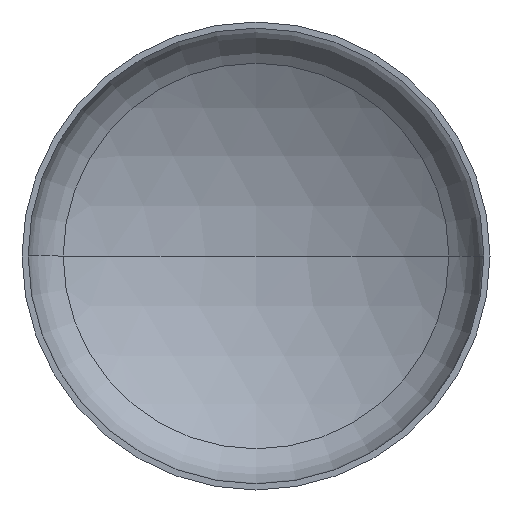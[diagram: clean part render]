
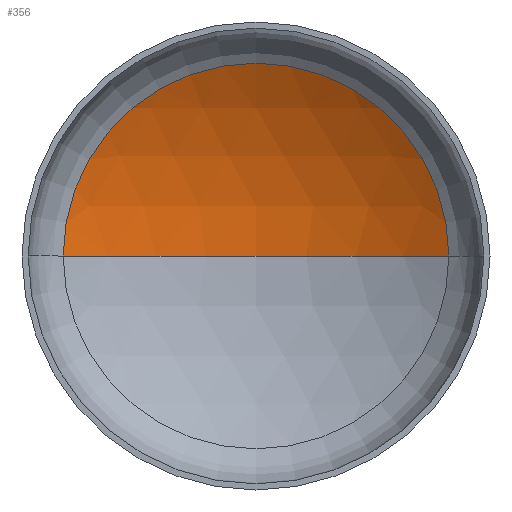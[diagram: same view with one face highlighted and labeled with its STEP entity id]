
A CAD part, front view. The second image highlights one B-rep face of the part: STEP entity #356.
In plain terms, the highlighted spherical face has radius 5600 mm.
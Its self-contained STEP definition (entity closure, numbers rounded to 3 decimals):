
#3 = AXIS2_PLACEMENT_3D ( 'NONE', #240, #378, #194 ) ;
#7 = VERTEX_POINT ( 'NONE', #273 ) ;
#10 = DIRECTION ( 'NONE',  ( 1., 0., 0. ) ) ;
#17 = ORIENTED_EDGE ( 'NONE', *, *, #148, .F. ) ;
#65 = AXIS2_PLACEMENT_3D ( 'NONE', #216, #182, #191 ) ;
#70 = AXIS2_PLACEMENT_3D ( 'NONE', #350, #315, #111 ) ;
#73 = AXIS2_PLACEMENT_3D ( 'NONE', #168, #197, #10 ) ;
#95 = ORIENTED_EDGE ( 'NONE', *, *, #145, .T. ) ;
#101 = EDGE_LOOP ( 'NONE', ( #17, #115, #95 ) ) ;
#108 = VERTEX_POINT ( 'NONE', #221 ) ;
#111 = DIRECTION ( 'NONE',  ( -1., 0., 0. ) ) ;
#115 = ORIENTED_EDGE ( 'NONE', *, *, #147, .T. ) ;
#116 = VERTEX_POINT ( 'NONE', #248 ) ;
#145 = EDGE_CURVE ( 'NONE', #116, #7, #227, .T. ) ;
#147 = EDGE_CURVE ( 'NONE', #108, #116, #342, .T. ) ;
#148 = EDGE_CURVE ( 'NONE', #108, #7, #393, .T. ) ;
#168 = CARTESIAN_POINT ( 'NONE',  ( 0., 1025.737, 0. ) ) ;
#182 = DIRECTION ( 'NONE',  ( 0., 0., 1. ) ) ;
#186 = SPHERICAL_SURFACE ( 'NONE', #3, 5600. ) ;
#191 = DIRECTION ( 'NONE',  ( 1., 0., 0. ) ) ;
#194 = DIRECTION ( 'NONE',  ( -1., 0., 0. ) ) ;
#197 = DIRECTION ( 'NONE',  ( 0., -1., 0. ) ) ;
#216 = CARTESIAN_POINT ( 'NONE',  ( 0., -3774.379, 0. ) ) ;
#221 = CARTESIAN_POINT ( 'NONE',  ( 0., 1825.621, 0. ) ) ;
#227 = CIRCLE ( 'NONE', #73, 2884.248 ) ;
#240 = CARTESIAN_POINT ( 'NONE',  ( 0., -3774.379, 0. ) ) ;
#248 = CARTESIAN_POINT ( 'NONE',  ( 2884.248, 1025.737, 0. ) ) ;
#273 = CARTESIAN_POINT ( 'NONE',  ( -2884.248, 1025.737, 0. ) ) ;
#315 = DIRECTION ( 'NONE',  ( 0., 0., -1. ) ) ;
#342 = CIRCLE ( 'NONE', #70, 5600. ) ;
#350 = CARTESIAN_POINT ( 'NONE',  ( 0., -3774.379, 0. ) ) ;
#356 = ADVANCED_FACE ( 'NONE', ( #377 ), #186, .F. ) ;
#377 = FACE_OUTER_BOUND ( 'NONE', #101, .T. ) ;
#378 = DIRECTION ( 'NONE',  ( 0., 0., -1. ) ) ;
#393 = CIRCLE ( 'NONE', #65, 5600. ) ;
